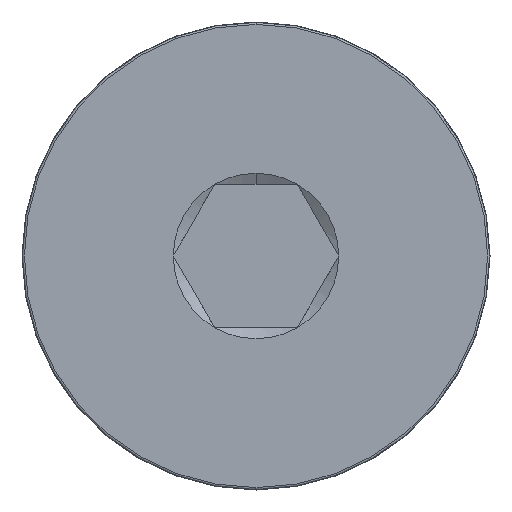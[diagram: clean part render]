
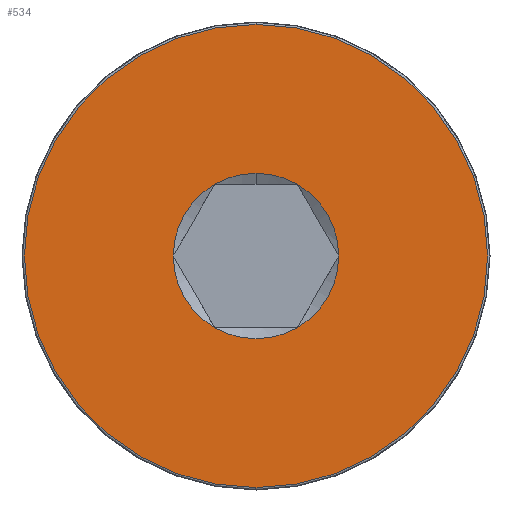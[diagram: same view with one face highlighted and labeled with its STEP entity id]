
A CAD part, left-side view. The second image highlights one B-rep face of the part: STEP entity #534.
In plain terms, the highlighted planar face has unit normal (-1, 0, 0).
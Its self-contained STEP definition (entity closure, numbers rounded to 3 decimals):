
#6 = DIRECTION ( 'NONE',  ( 0., 0., -1. ) ) ;
#14 = EDGE_CURVE ( 'NONE', #28, #251, #647, .T. ) ;
#16 = ORIENTED_EDGE ( 'NONE', *, *, #14, .T. ) ;
#28 = VERTEX_POINT ( 'NONE', #395 ) ;
#36 = CARTESIAN_POINT ( 'NONE',  ( 0., 0., 0. ) ) ;
#37 = DIRECTION ( 'NONE',  ( 1., 0., 0. ) ) ;
#40 = DIRECTION ( 'NONE',  ( 0., 0., -1. ) ) ;
#54 = VERTEX_POINT ( 'NONE', #265 ) ;
#55 = EDGE_CURVE ( 'NONE', #54, #435, #70, .T. ) ;
#68 = EDGE_CURVE ( 'NONE', #615, #28, #235, .T. ) ;
#69 = EDGE_LOOP ( 'NONE', ( #530, #550 ) ) ;
#70 = CIRCLE ( 'NONE', #423, 1.732 ) ;
#74 = CIRCLE ( 'NONE', #437, 4.85 ) ;
#75 = EDGE_CURVE ( 'NONE', #435, #533, #376, .T. ) ;
#78 = ORIENTED_EDGE ( 'NONE', *, *, #68, .T. ) ;
#95 = DIRECTION ( 'NONE',  ( 0., 0., -1. ) ) ;
#102 = CARTESIAN_POINT ( 'NONE',  ( 0., 0., 0. ) ) ;
#109 = AXIS2_PLACEMENT_3D ( 'NONE', #343, #389, #40 ) ;
#131 = EDGE_CURVE ( 'NONE', #742, #380, #159, .T. ) ;
#143 = CARTESIAN_POINT ( 'NONE',  ( 0., 0., 0. ) ) ;
#151 = PLANE ( 'NONE',  #352 ) ;
#153 = DIRECTION ( 'NONE',  ( 0., 0., -1. ) ) ;
#159 = CIRCLE ( 'NONE', #224, 4.85 ) ;
#182 = CARTESIAN_POINT ( 'NONE',  ( 0., -1.732, 0. ) ) ;
#195 = CARTESIAN_POINT ( 'NONE',  ( 0., 0., -4.85 ) ) ;
#221 = DIRECTION ( 'NONE',  ( 0., 0., 1. ) ) ;
#224 = AXIS2_PLACEMENT_3D ( 'NONE', #654, #467, #291 ) ;
#235 = CIRCLE ( 'NONE', #109, 1.732 ) ;
#244 = CARTESIAN_POINT ( 'NONE',  ( 0., 0., 0. ) ) ;
#251 = VERTEX_POINT ( 'NONE', #400 ) ;
#263 = AXIS2_PLACEMENT_3D ( 'NONE', #244, #303, #560 ) ;
#265 = CARTESIAN_POINT ( 'NONE',  ( 0., 1.732, 0. ) ) ;
#267 = FACE_OUTER_BOUND ( 'NONE', #69, .T. ) ;
#277 = DIRECTION ( 'NONE',  ( 1., 0., 0. ) ) ;
#278 = DIRECTION ( 'NONE',  ( 1., 0., 0. ) ) ;
#291 = DIRECTION ( 'NONE',  ( 0., 0., 1. ) ) ;
#303 = DIRECTION ( 'NONE',  ( 1., 0., 0. ) ) ;
#343 = CARTESIAN_POINT ( 'NONE',  ( 0., 0., 0. ) ) ;
#352 = AXIS2_PLACEMENT_3D ( 'NONE', #143, #391, #631 ) ;
#376 = CIRCLE ( 'NONE', #525, 1.732 ) ;
#378 = CIRCLE ( 'NONE', #263, 1.732 ) ;
#380 = VERTEX_POINT ( 'NONE', #730 ) ;
#385 = CARTESIAN_POINT ( 'NONE',  ( 0., 0., 0. ) ) ;
#389 = DIRECTION ( 'NONE',  ( 1., 0., 0. ) ) ;
#391 = DIRECTION ( 'NONE',  ( -1., 0., 0. ) ) ;
#394 = FACE_BOUND ( 'NONE', #595, .T. ) ;
#395 = CARTESIAN_POINT ( 'NONE',  ( 0., -0.866, -1.5 ) ) ;
#400 = CARTESIAN_POINT ( 'NONE',  ( 0., 0.866, -1.5 ) ) ;
#402 = EDGE_CURVE ( 'NONE', #562, #615, #513, .T. ) ;
#423 = AXIS2_PLACEMENT_3D ( 'NONE', #385, #586, #95 ) ;
#430 = CARTESIAN_POINT ( 'NONE',  ( 0., 0., 0. ) ) ;
#435 = VERTEX_POINT ( 'NONE', #442 ) ;
#437 = AXIS2_PLACEMENT_3D ( 'NONE', #102, #671, #221 ) ;
#442 = CARTESIAN_POINT ( 'NONE',  ( 0., 0.866, 1.5 ) ) ;
#457 = ORIENTED_EDGE ( 'NONE', *, *, #402, .T. ) ;
#467 = DIRECTION ( 'NONE',  ( -1., 0., 0. ) ) ;
#468 = ORIENTED_EDGE ( 'NONE', *, *, #528, .T. ) ;
#472 = ORIENTED_EDGE ( 'NONE', *, *, #55, .T. ) ;
#505 = CARTESIAN_POINT ( 'NONE',  ( 0., -0.866, 1.5 ) ) ;
#509 = DIRECTION ( 'NONE',  ( 0., 0., -1. ) ) ;
#513 = CIRCLE ( 'NONE', #722, 1.732 ) ;
#525 = AXIS2_PLACEMENT_3D ( 'NONE', #636, #37, #509 ) ;
#528 = EDGE_CURVE ( 'NONE', #533, #562, #569, .T. ) ;
#530 = ORIENTED_EDGE ( 'NONE', *, *, #663, .T. ) ;
#533 = VERTEX_POINT ( 'NONE', #575 ) ;
#534 = ADVANCED_FACE ( 'NONE', ( #267, #394 ), #151, .T. ) ;
#550 = ORIENTED_EDGE ( 'NONE', *, *, #131, .T. ) ;
#560 = DIRECTION ( 'NONE',  ( 0., 0., -1. ) ) ;
#562 = VERTEX_POINT ( 'NONE', #505 ) ;
#569 = CIRCLE ( 'NONE', #650, 1.732 ) ;
#572 = ORIENTED_EDGE ( 'NONE', *, *, #754, .T. ) ;
#575 = CARTESIAN_POINT ( 'NONE',  ( 0., 0., 1.732 ) ) ;
#580 = DIRECTION ( 'NONE',  ( 0., 0., -1. ) ) ;
#586 = DIRECTION ( 'NONE',  ( 1., 0., 0. ) ) ;
#595 = EDGE_LOOP ( 'NONE', ( #472, #656, #468, #457, #78, #16, #572 ) ) ;
#615 = VERTEX_POINT ( 'NONE', #182 ) ;
#631 = DIRECTION ( 'NONE',  ( 0., 0., 1. ) ) ;
#636 = CARTESIAN_POINT ( 'NONE',  ( 0., 0., 0. ) ) ;
#647 = CIRCLE ( 'NONE', #745, 1.732 ) ;
#650 = AXIS2_PLACEMENT_3D ( 'NONE', #36, #277, #153 ) ;
#651 = CARTESIAN_POINT ( 'NONE',  ( 0., 0., 0. ) ) ;
#654 = CARTESIAN_POINT ( 'NONE',  ( 0., 0., 0. ) ) ;
#656 = ORIENTED_EDGE ( 'NONE', *, *, #75, .T. ) ;
#663 = EDGE_CURVE ( 'NONE', #380, #742, #74, .T. ) ;
#671 = DIRECTION ( 'NONE',  ( -1., 0., 0. ) ) ;
#685 = DIRECTION ( 'NONE',  ( 1., 0., 0. ) ) ;
#722 = AXIS2_PLACEMENT_3D ( 'NONE', #430, #685, #6 ) ;
#730 = CARTESIAN_POINT ( 'NONE',  ( 0., 0., 4.85 ) ) ;
#742 = VERTEX_POINT ( 'NONE', #195 ) ;
#745 = AXIS2_PLACEMENT_3D ( 'NONE', #651, #278, #580 ) ;
#754 = EDGE_CURVE ( 'NONE', #251, #54, #378, .T. ) ;
